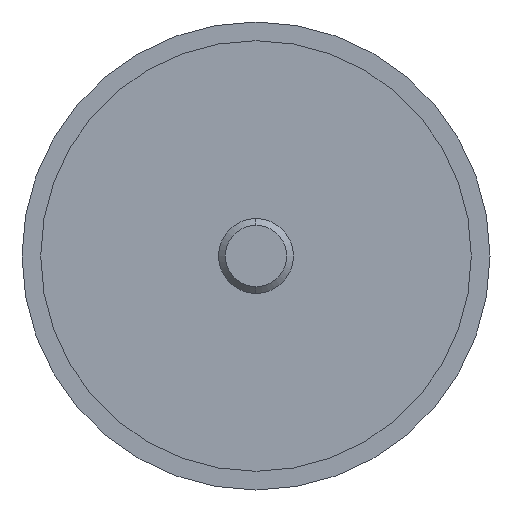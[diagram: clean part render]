
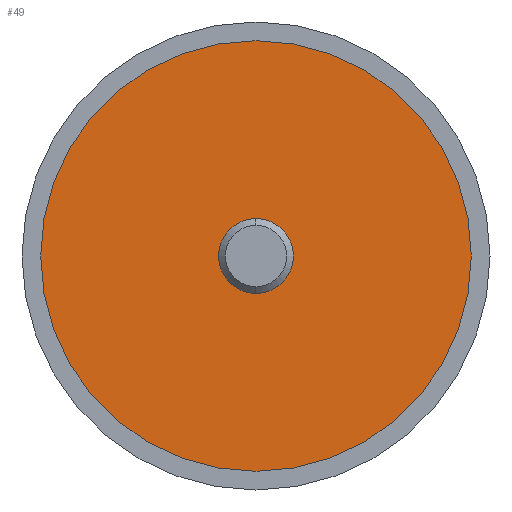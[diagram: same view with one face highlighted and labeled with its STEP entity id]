
A CAD part, left-side view. The second image highlights one B-rep face of the part: STEP entity #49.
In plain terms, the highlighted planar face has unit normal (-1, 0, 0).
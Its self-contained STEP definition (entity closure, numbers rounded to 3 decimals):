
#3 = EDGE_LOOP ( 'NONE', ( #286, #42 ) ) ;
#4 = DIRECTION ( 'NONE',  ( 0., 0., -1. ) ) ;
#9 = CARTESIAN_POINT ( 'NONE',  ( -24.99, 34.5, 0. ) ) ;
#31 = DIRECTION ( 'NONE',  ( 0., 0., 1. ) ) ;
#41 = EDGE_CURVE ( 'NONE', #106, #141, #205, .T. ) ;
#42 = ORIENTED_EDGE ( 'NONE', *, *, #498, .F. ) ;
#49 = ADVANCED_FACE ( 'NONE', ( #331, #318 ), #158, .F. ) ;
#59 = ORIENTED_EDGE ( 'NONE', *, *, #258, .T. ) ;
#104 = DIRECTION ( 'NONE',  ( -1., 0., 0. ) ) ;
#106 = VERTEX_POINT ( 'NONE', #654 ) ;
#141 = VERTEX_POINT ( 'NONE', #184 ) ;
#144 = AXIS2_PLACEMENT_3D ( 'NONE', #9, #208, #634 ) ;
#158 = PLANE ( 'NONE',  #144 ) ;
#182 = CARTESIAN_POINT ( 'NONE',  ( -24.99, 0., 0. ) ) ;
#184 = CARTESIAN_POINT ( 'NONE',  ( -24.99, 0., -6. ) ) ;
#205 = CIRCLE ( 'NONE', #587, 6. ) ;
#208 = DIRECTION ( 'NONE',  ( 1., 0., 0. ) ) ;
#215 = DIRECTION ( 'NONE',  ( 0., 0., -1. ) ) ;
#233 = CARTESIAN_POINT ( 'NONE',  ( -24.99, 0., 34.5 ) ) ;
#238 = AXIS2_PLACEMENT_3D ( 'NONE', #329, #478, #4 ) ;
#243 = CARTESIAN_POINT ( 'NONE',  ( -24.99, 0., 0. ) ) ;
#258 = EDGE_CURVE ( 'NONE', #655, #330, #383, .T. ) ;
#265 = CARTESIAN_POINT ( 'NONE',  ( -24.99, 0., 0. ) ) ;
#286 = ORIENTED_EDGE ( 'NONE', *, *, #41, .F. ) ;
#318 = FACE_BOUND ( 'NONE', #3, .T. ) ;
#328 = EDGE_CURVE ( 'NONE', #330, #655, #641, .T. ) ;
#329 = CARTESIAN_POINT ( 'NONE',  ( -24.99, 0., 0. ) ) ;
#330 = VERTEX_POINT ( 'NONE', #233 ) ;
#331 = FACE_OUTER_BOUND ( 'NONE', #557, .T. ) ;
#344 = AXIS2_PLACEMENT_3D ( 'NONE', #182, #502, #31 ) ;
#383 = CIRCLE ( 'NONE', #627, 34.5 ) ;
#442 = CIRCLE ( 'NONE', #238, 6. ) ;
#478 = DIRECTION ( 'NONE',  ( -1., 0., 0. ) ) ;
#498 = EDGE_CURVE ( 'NONE', #141, #106, #442, .T. ) ;
#502 = DIRECTION ( 'NONE',  ( -1., 0., 0. ) ) ;
#520 = ORIENTED_EDGE ( 'NONE', *, *, #328, .T. ) ;
#540 = CARTESIAN_POINT ( 'NONE',  ( -24.99, 0., -34.5 ) ) ;
#557 = EDGE_LOOP ( 'NONE', ( #520, #59 ) ) ;
#587 = AXIS2_PLACEMENT_3D ( 'NONE', #265, #104, #215 ) ;
#615 = DIRECTION ( 'NONE',  ( 0., 0., 1. ) ) ;
#627 = AXIS2_PLACEMENT_3D ( 'NONE', #243, #670, #615 ) ;
#634 = DIRECTION ( 'NONE',  ( 0., 0., -1. ) ) ;
#641 = CIRCLE ( 'NONE', #344, 34.5 ) ;
#654 = CARTESIAN_POINT ( 'NONE',  ( -24.99, 0., 6. ) ) ;
#655 = VERTEX_POINT ( 'NONE', #540 ) ;
#670 = DIRECTION ( 'NONE',  ( -1., 0., 0. ) ) ;
